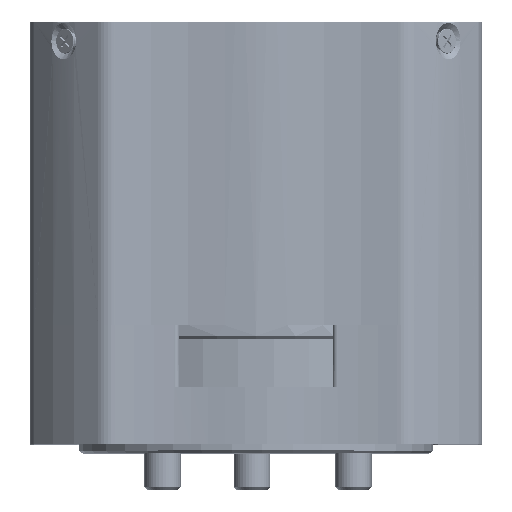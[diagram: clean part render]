
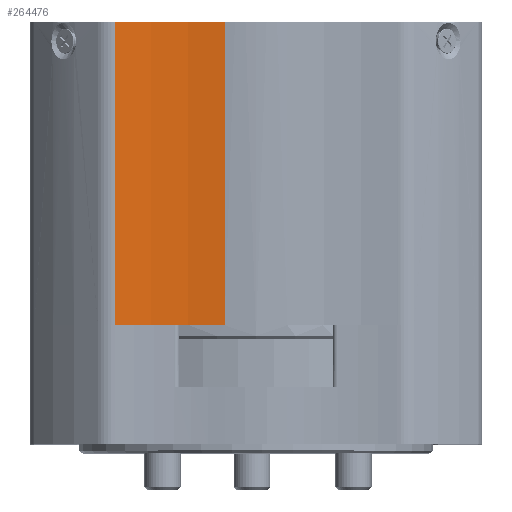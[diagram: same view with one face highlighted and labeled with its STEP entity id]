
A CAD part, top view. The second image highlights one B-rep face of the part: STEP entity #264476.
In plain terms, the highlighted cylindrical face has radius 40 mm (diameter 80 mm), a partial arc.
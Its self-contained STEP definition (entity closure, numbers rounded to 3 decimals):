
#28496 = DIRECTION ( 'NONE',  ( 0., 1., 0. ) ) ;
#29143 = VERTEX_POINT ( 'NONE', #288407 ) ;
#63513 = EDGE_CURVE ( 'NONE', #223522, #103403, #116063, .T. ) ;
#67785 = ORIENTED_EDGE ( 'NONE', *, *, #209169, .F. ) ;
#78942 = AXIS2_PLACEMENT_3D ( 'NONE', #86762, #28496, #148942 ) ;
#83710 = LINE ( 'NONE', #328555, #276991 ) ;
#86762 = CARTESIAN_POINT ( 'NONE',  ( -9.035, -1.5, 64.319 ) ) ;
#90711 = CYLINDRICAL_SURFACE ( 'NONE', #78942, 40. ) ;
#103403 = VERTEX_POINT ( 'NONE', #115005 ) ;
#103985 = DIRECTION ( 'NONE',  ( 0., 1., 0. ) ) ;
#107886 = DIRECTION ( 'NONE',  ( 0., 1., 0. ) ) ;
#115005 = CARTESIAN_POINT ( 'NONE',  ( -3.471, 0., 24.707 ) ) ;
#116063 = CIRCLE ( 'NONE', #192893, 40. ) ;
#124198 = EDGE_CURVE ( 'NONE', #103403, #29143, #83710, .T. ) ;
#128876 = AXIS2_PLACEMENT_3D ( 'NONE', #258643, #349048, #282830 ) ;
#148401 = DIRECTION ( 'NONE',  ( 0., -1., 0. ) ) ;
#148942 = DIRECTION ( 'NONE',  ( 0., 0., 1. ) ) ;
#163270 = CARTESIAN_POINT ( 'NONE',  ( -15.561, 33.4, 24.855 ) ) ;
#168210 = CARTESIAN_POINT ( 'NONE',  ( -15.561, 0., 24.855 ) ) ;
#192893 = AXIS2_PLACEMENT_3D ( 'NONE', #232775, #148401, #206625 ) ;
#198316 = ORIENTED_EDGE ( 'NONE', *, *, #262176, .F. ) ;
#206625 = DIRECTION ( 'NONE',  ( 0., 0., 1. ) ) ;
#209169 = EDGE_CURVE ( 'NONE', #210104, #29143, #391590, .T. ) ;
#210104 = VERTEX_POINT ( 'NONE', #163270 ) ;
#223522 = VERTEX_POINT ( 'NONE', #168210 ) ;
#232775 = CARTESIAN_POINT ( 'NONE',  ( -9.035, 0., 64.319 ) ) ;
#258643 = CARTESIAN_POINT ( 'NONE',  ( -9.035, 33.4, 64.319 ) ) ;
#262176 = EDGE_CURVE ( 'NONE', #223522, #210104, #284653, .T. ) ;
#264476 = ADVANCED_FACE ( 'NONE', ( #299504 ), #90711, .F. ) ;
#270856 = ORIENTED_EDGE ( 'NONE', *, *, #63513, .T. ) ;
#276991 = VECTOR ( 'NONE', #107886, 1000. ) ;
#282830 = DIRECTION ( 'NONE',  ( 0., 0., 1. ) ) ;
#284653 = LINE ( 'NONE', #344886, #322236 ) ;
#288407 = CARTESIAN_POINT ( 'NONE',  ( -3.471, 33.4, 24.707 ) ) ;
#291429 = EDGE_LOOP ( 'NONE', ( #320002, #67785, #198316, #270856 ) ) ;
#299504 = FACE_OUTER_BOUND ( 'NONE', #291429, .T. ) ;
#320002 = ORIENTED_EDGE ( 'NONE', *, *, #124198, .T. ) ;
#322236 = VECTOR ( 'NONE', #103985, 1000. ) ;
#328555 = CARTESIAN_POINT ( 'NONE',  ( -3.471, -1.5, 24.707 ) ) ;
#344886 = CARTESIAN_POINT ( 'NONE',  ( -15.561, -1.5, 24.855 ) ) ;
#349048 = DIRECTION ( 'NONE',  ( 0., -1., 0. ) ) ;
#391590 = CIRCLE ( 'NONE', #128876, 40. ) ;
